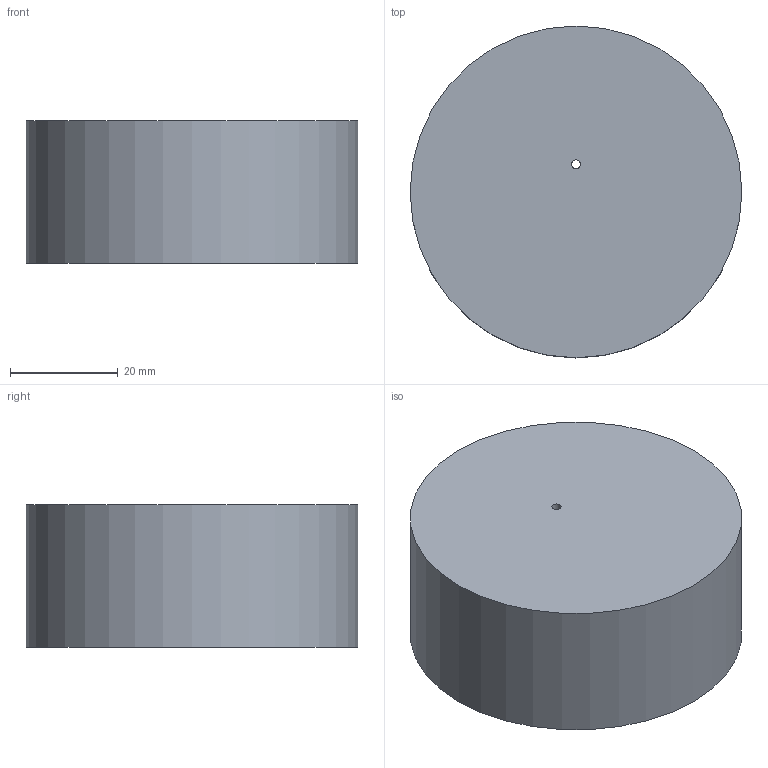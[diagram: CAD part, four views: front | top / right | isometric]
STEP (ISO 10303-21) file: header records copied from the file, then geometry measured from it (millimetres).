
FILE_DESCRIPTION( ('This file contains a STEP AP42 implementation' ,'as created by ZW3D STEP Interface translator.') ,'2;1' );
FILE_NAME( 'OGZ-59.stp' ,'26 521. 83740', (''), ('ZWCAD Software Co.'), 'Version 1.0', 'ZW3D to STEP translator', '' );
FILE_SCHEMA(('AP242_MANAGED_MODEL_BASED_3D_ENGINEERING_MIM_LF { 1 0 10303 442 1 1 4 }'));
Length unit declared in the file: millimetre
Products named in the file (1): 0
Bounding box: 61.5 x 61.5 x 26.4 mm (x, y, z)
Volume: 10343.8 mm3; surface area: 15660.6 mm2
Topology: 1 solids, 1 shells, 6 faces, 9 edges, 6 vertices
Faces by surface type: cylinder 3, plane 3
Full cylindrical faces by diameter (mm): 1.7 x1, 59 x1, 61.5 x1
Entity records: 169 total; most frequent: DIRECTION 29, CARTESIAN_POINT 22, ORIENTED_EDGE 18, AXIS2_PLACEMENT_3D 13, EDGE_CURVE 9, EDGE_LOOP 9, VERTEX_POINT 6, CIRCLE 6
